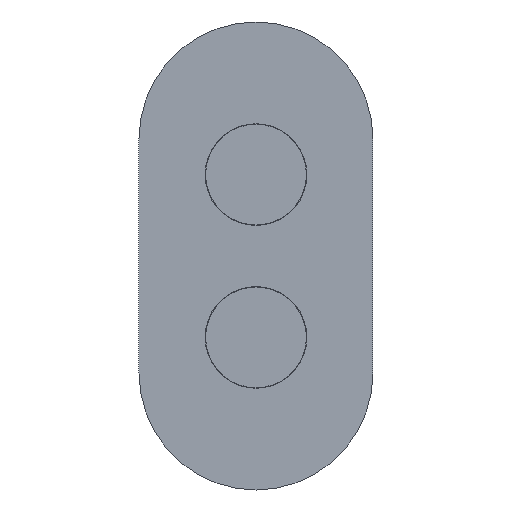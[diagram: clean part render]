
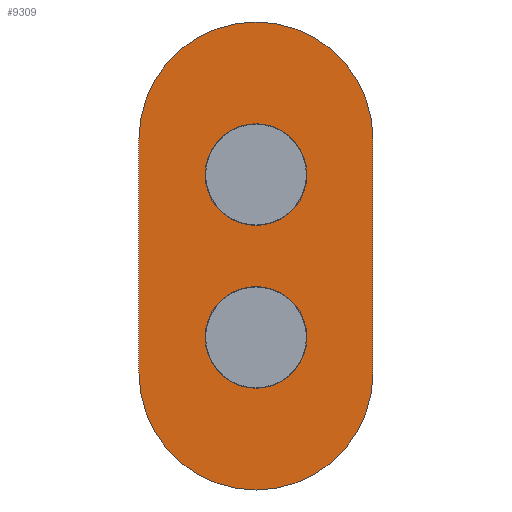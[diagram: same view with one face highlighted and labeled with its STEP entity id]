
A CAD part, front view. The second image highlights one B-rep face of the part: STEP entity #9309.
In plain terms, the highlighted planar face has unit normal (0, -1, 0).
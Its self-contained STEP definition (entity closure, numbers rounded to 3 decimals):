
#2628=DIRECTION('',(0.,0.,1.));
#2629=VECTOR('',#2628,115.);
#2630=CARTESIAN_POINT('',(-57.5,71.2,-97.5));
#2631=LINE('',#2630,#2629);
#2632=CARTESIAN_POINT('',(0.,71.2,17.5));
#2633=DIRECTION('',(0.,1.,0.));
#2634=DIRECTION('',(-1.,0.,0.));
#2635=AXIS2_PLACEMENT_3D('',#2632,#2633,#2634);
#2637=DIRECTION('',(0.,0.,-1.));
#2638=VECTOR('',#2637,115.);
#2639=CARTESIAN_POINT('',(57.5,71.2,17.5));
#2640=LINE('',#2639,#2638);
#2641=CARTESIAN_POINT('',(0.,71.2,-97.5));
#2642=DIRECTION('',(0.,1.,0.));
#2643=DIRECTION('',(1.,0.,0.));
#2644=AXIS2_PLACEMENT_3D('',#2641,#2642,#2643);
#2646=CARTESIAN_POINT('',(0.,71.2,0.));
#2647=DIRECTION('',(0.,-1.,0.));
#2648=DIRECTION('',(0.,0.,1.));
#2649=AXIS2_PLACEMENT_3D('',#2646,#2647,#2648);
#2651=CARTESIAN_POINT('',(0.,71.2,0.));
#2652=DIRECTION('',(0.,-1.,0.));
#2653=DIRECTION('',(0.,0.,-1.));
#2654=AXIS2_PLACEMENT_3D('',#2651,#2652,#2653);
#2656=CARTESIAN_POINT('',(0.,71.2,-80.));
#2657=DIRECTION('',(0.,-1.,0.));
#2658=DIRECTION('',(0.,0.,1.));
#2659=AXIS2_PLACEMENT_3D('',#2656,#2657,#2658);
#2661=CARTESIAN_POINT('',(0.,71.2,-80.));
#2662=DIRECTION('',(0.,-1.,0.));
#2663=DIRECTION('',(0.,0.,-1.));
#2664=AXIS2_PLACEMENT_3D('',#2661,#2662,#2663);
#5712=CARTESIAN_POINT('',(-57.5,71.2,-97.5));
#5713=CARTESIAN_POINT('',(-57.5,71.2,17.5));
#5714=VERTEX_POINT('',#5712);
#5715=VERTEX_POINT('',#5713);
#5716=CARTESIAN_POINT('',(57.5,71.2,17.5));
#5717=VERTEX_POINT('',#5716);
#5718=CARTESIAN_POINT('',(57.5,71.2,-97.5));
#5719=VERTEX_POINT('',#5718);
#6230=CARTESIAN_POINT('',(0.,71.2,24.775));
#6231=CARTESIAN_POINT('',(0.,71.2,-24.775));
#6232=VERTEX_POINT('',#6230);
#6233=VERTEX_POINT('',#6231);
#6238=CARTESIAN_POINT('',(0.,71.2,-55.225));
#6239=CARTESIAN_POINT('',(0.,71.2,-104.775));
#6240=VERTEX_POINT('',#6238);
#6241=VERTEX_POINT('',#6239);
#9286=CARTESIAN_POINT('',(0.,71.2,-40.));
#9287=DIRECTION('',(0.,1.,0.));
#9288=DIRECTION('',(1.,0.,0.));
#9289=AXIS2_PLACEMENT_3D('',#9286,#9287,#9288);
#9290=PLANE('',#9289);
#9291=ORIENTED_EDGE('',*,*,#9267,.T.);
#9292=ORIENTED_EDGE('',*,*,#9280,.T.);
#9293=ORIENTED_EDGE('',*,*,#9238,.T.);
#9294=ORIENTED_EDGE('',*,*,#9253,.T.);
#9295=EDGE_LOOP('',(#9291,#9292,#9293,#9294));
#9296=FACE_OUTER_BOUND('',#9295,.F.);
#9298=ORIENTED_EDGE('',*,*,#9297,.T.);
#9300=ORIENTED_EDGE('',*,*,#9299,.T.);
#9301=EDGE_LOOP('',(#9298,#9300));
#9302=FACE_BOUND('',#9301,.F.);
#9304=ORIENTED_EDGE('',*,*,#9303,.T.);
#9306=ORIENTED_EDGE('',*,*,#9305,.T.);
#9307=EDGE_LOOP('',(#9304,#9306));
#9308=FACE_BOUND('',#9307,.F.);
#9309=ADVANCED_FACE('',(#9296,#9302,#9308),#9290,.F.);
#2636=CIRCLE('',#2635,57.5);
#2645=CIRCLE('',#2644,57.5);
#2650=CIRCLE('',#2649,24.775);
#2655=CIRCLE('',#2654,24.775);
#2660=CIRCLE('',#2659,24.775);
#2665=CIRCLE('',#2664,24.775);
#9238=EDGE_CURVE('',#5717,#5719,#2640,.T.);
#9253=EDGE_CURVE('',#5719,#5714,#2645,.T.);
#9267=EDGE_CURVE('',#5714,#5715,#2631,.T.);
#9280=EDGE_CURVE('',#5715,#5717,#2636,.T.);
#9297=EDGE_CURVE('',#6232,#6233,#2650,.T.);
#9299=EDGE_CURVE('',#6233,#6232,#2655,.T.);
#9303=EDGE_CURVE('',#6240,#6241,#2660,.T.);
#9305=EDGE_CURVE('',#6241,#6240,#2665,.T.);
